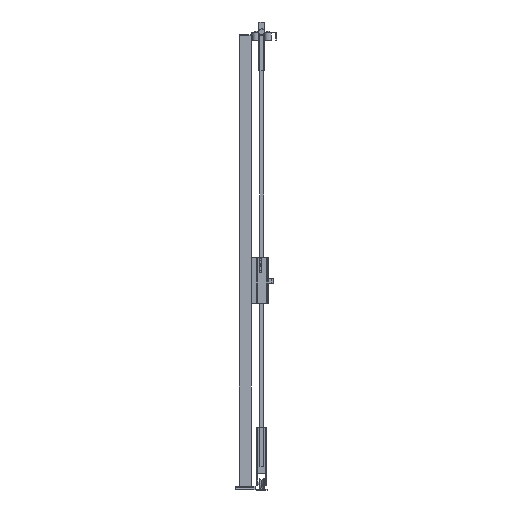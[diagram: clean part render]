
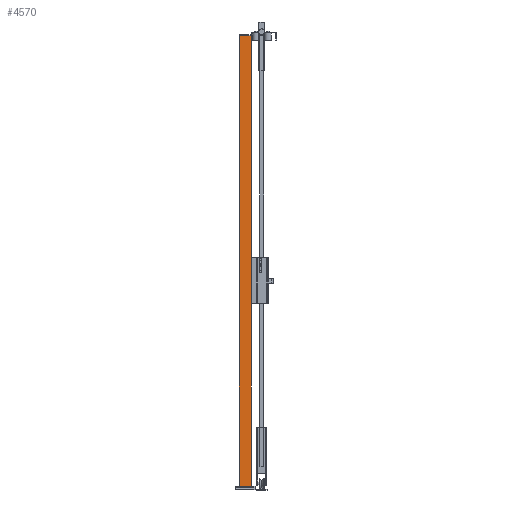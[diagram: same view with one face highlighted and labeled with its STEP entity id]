
A CAD part, left-side view. The second image highlights one B-rep face of the part: STEP entity #4570.
In plain terms, the highlighted planar face has unit normal (-1, 0, 0) as drawn and (0, 1, 0) by its records, which use the part's own axes.
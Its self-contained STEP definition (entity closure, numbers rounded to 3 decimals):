
#503=FACE_OUTER_BOUND('',#838,.T.);
#838=EDGE_LOOP('',(#2851,#2852,#2853,#2854));
#1214=VERTEX_POINT('',#9548);
#1215=VERTEX_POINT('',#9550);
#1217=VERTEX_POINT('',#9556);
#1220=VERTEX_POINT('',#9561);
#1864=EDGE_CURVE('',#1214,#1215,#5327,.T.);
#1870=EDGE_CURVE('',#1220,#1217,#5333,.T.);
#1873=EDGE_CURVE('',#1215,#1220,#5336,.T.);
#1874=EDGE_CURVE('',#1214,#1217,#5337,.T.);
#2851=ORIENTED_EDGE('',*,*,#1874,.T.);
#2852=ORIENTED_EDGE('',*,*,#1870,.F.);
#2853=ORIENTED_EDGE('',*,*,#1873,.F.);
#2854=ORIENTED_EDGE('',*,*,#1864,.F.);
#4281=PLANE('',#6791);
#4570=ADVANCED_FACE('',(#503),#4281,.F.);
#5327=LINE('',#9551,#6108);
#5333=LINE('',#9563,#6114);
#5336=LINE('',#9568,#6117);
#5337=LINE('',#9570,#6118);
#6108=VECTOR('',#7543,1.);
#6114=VECTOR('',#7551,1.);
#6117=VECTOR('',#7558,1.);
#6118=VECTOR('',#7561,1.);
#6791=AXIS2_PLACEMENT_3D('',#9569,#7559,#7560);
#7543=DIRECTION('',(-1.,0.,0.));
#7551=DIRECTION('',(1.,0.,0.));
#7558=DIRECTION('',(0.,0.,-1.));
#7559=DIRECTION('center_axis',(0.,-1.,0.));
#7560=DIRECTION('ref_axis',(0.,0.,-1.));
#7561=DIRECTION('',(0.,0.,-1.));
#9548=CARTESIAN_POINT('',(30.,30.,2320.));
#9550=CARTESIAN_POINT('',(-30.,30.,2320.));
#9551=CARTESIAN_POINT('',(0.,30.,2320.));
#9556=CARTESIAN_POINT('',(30.,30.,20.));
#9561=CARTESIAN_POINT('',(-30.,30.,20.));
#9563=CARTESIAN_POINT('',(0.,30.,20.));
#9568=CARTESIAN_POINT('',(-30.,30.,1170.));
#9569=CARTESIAN_POINT('Origin',(0.,30.,
1170.));
#9570=CARTESIAN_POINT('',(30.,30.,1170.));
